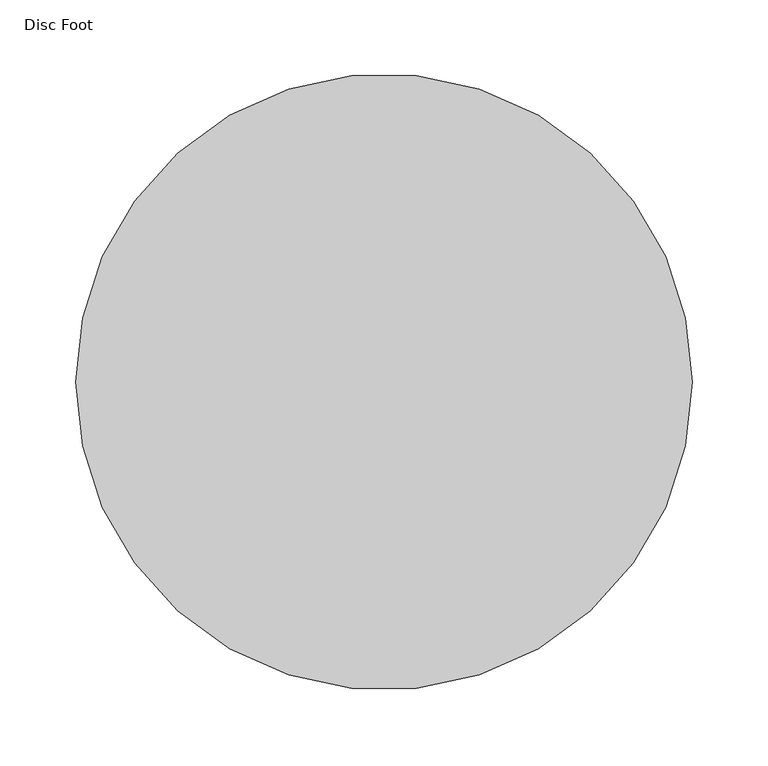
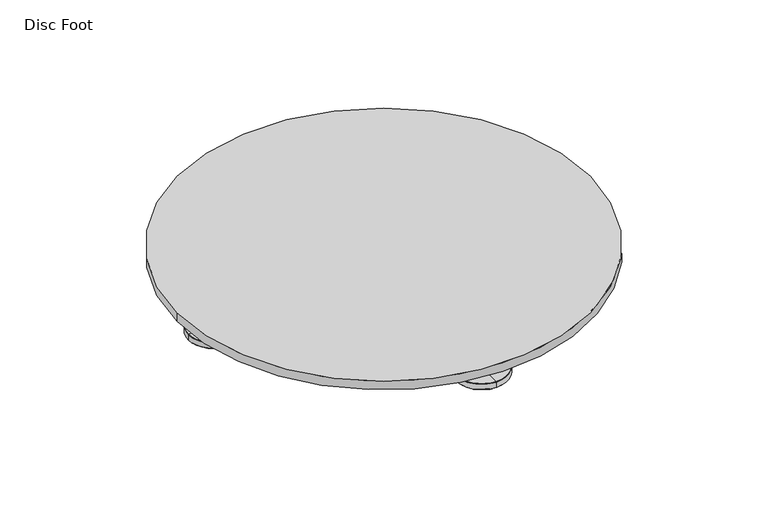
"""IFC4 building model written with IfcOpenShell, lengths in millimetres: furniture geometry, Geiger_GeigerOneCasegoods_LegSupport : Disc Foot."""

from ifc_helpers import new_model, si_unit, point, frame, origin, origin_2d, place, context, project, spatial, polyline, circle_curve, trimmed, segment, composite_curve, outline, extrude, source, transform, mapped, element, save
from ifc_brep_helpers import plane_surface, cylinder_surface, revolved_surface, advanced_brep


def disc_foot_0842a4c7(model_context):
    return source(origin(), model_context, "Body", "SolidModel", [
        extrude(outline(composite_curve([segment(trimmed(circle_curve(origin_2d(), 203.1570956), [point((-203.1570956, 0.0))], [point((203.1570956, 0.0))], False, "CARTESIAN"), True, "CONTINUOUS"), segment(trimmed(circle_curve(origin_2d(), 203.1570956), [point((203.1570956, 0.0))], [point((-203.1570956, 0.0))], False, "CARTESIAN"), True, "CONTINUOUS")], self_intersect=False)), frame((0.0, 0.0, 23.4), z_axis=(0.0, 0.0, 1.0), x_axis=(1.0, 0.0, 0.0)), (0.0, 0.0, 1.0), 9.0),
        extrude(outline(composite_curve([segment(trimmed(circle_curve(origin_2d(), 174.0827247), [point((-174.0827247, 0.0))], [point((174.0827247, 0.0))], False, "CARTESIAN"), True, "CONTINUOUS"), segment(trimmed(circle_curve(origin_2d(), 174.0827247), [point((174.0827247, 0.0))], [point((-174.0827247, 0.0))], False, "CARTESIAN"), True, "CONTINUOUS")], self_intersect=False)), frame((0.0, 0.0, 13.4), z_axis=(0.0, 0.0, 1.0), x_axis=(1.0, 0.0, 0.0)), (0.0, 0.0, 1.0), 10.0),
        advanced_brep(
        [(191.9, 0.0, 6.4), (142.1, 0.0, 6.4), (163.0649249, 0.0, 6.4), (170.9350751, 0.0, 6.4), (163.0649249, 0.0, 13.4), (170.9350751, 0.0, 13.4), (167.0, 0.0, 13.4), (167.0, 0.0, 0.0), (142.1, 0.0, 0.0), (191.9, 0.0, 0.0), (141.5365462, 0.0, 0.5634538), (192.4634538, 0.0, 0.5634538), (141.5365462, 0.0, 5.8365462), (192.4634538, 0.0, 5.8365462)],
        [
            (0, 1, circle_curve(frame((167.0, 0.0, 6.4), z_axis=(0.0, 0.0, 1.0), x_axis=(-1.0, 0.0, 0.0)), 24.9)),
            (1, 2),
            (2, 3, circle_curve(frame((167.0, 0.0, 6.4), z_axis=(0.0, 0.0, -1.0), x_axis=(-1.0, 0.0, 0.0)), 3.9350751)),
            (3, 0),
            (1, 0, circle_curve(frame((167.0, 0.0, 6.4), z_axis=(0.0, 0.0, 1.0), x_axis=(-1.0, 0.0, 0.0)), 24.9)),
            (3, 2, circle_curve(frame((167.0, 0.0, 6.4), z_axis=(0.0, 0.0, -1.0), x_axis=(-1.0, 0.0, 0.0)), 3.9350751)),
            (2, 4),
            (4, 5, circle_curve(frame((167.0, 0.0, 13.4), z_axis=(0.0, 0.0, -1.0), x_axis=(-1.0, 0.0, 0.0)), 3.9350751)),
            (5, 3),
            (5, 4, circle_curve(frame((167.0, 0.0, 13.4), z_axis=(0.0, 0.0, -1.0), x_axis=(-1.0, 0.0, 0.0)), 3.9350751)),
            (4, 6),
            (6, 5),
            (7, 8),
            (8, 9, circle_curve(frame((167.0, 0.0, 0.0), z_axis=(0.0, 0.0, -1.0), x_axis=(-1.0, 0.0, 0.0)), 24.9)),
            (9, 7),
            (9, 8, circle_curve(frame((167.0, 0.0, 0.0), z_axis=(0.0, 0.0, -1.0), x_axis=(-1.0, 0.0, 0.0)), 24.9)),
            (8, 10),
            (10, 11, circle_curve(frame((167.0, 0.0, 0.5634538), z_axis=(0.0, 0.0, -1.0), x_axis=(-1.0, 0.0, 0.0)), 25.4634538)),
            (11, 9),
            (11, 10, circle_curve(frame((167.0, 0.0, 0.5634538), z_axis=(0.0, 0.0, -1.0), x_axis=(-1.0, 0.0, 0.0)), 25.4634538)),
            (10, 12),
            (12, 13, circle_curve(frame((167.0, 0.0, 5.8365462), z_axis=(0.0, 0.0, -1.0), x_axis=(-1.0, 0.0, 0.0)), 25.4634538)),
            (13, 11),
            (13, 12, circle_curve(frame((167.0, 0.0, 5.8365462), z_axis=(0.0, 0.0, -1.0), x_axis=(-1.0, 0.0, 0.0)), 25.4634538)),
            (12, 1),
            (0, 13),
        ],
        [
            plane_surface(frame((167.0, 0.0, 6.4), z_axis=(0.0, 0.0, 1.0), x_axis=(-1.0, 0.0, 0.0))),
            cylinder_surface(frame((167.0, 0.0, 13.4), z_axis=(0.0, 0.0, -1.0), x_axis=(-1.0, 0.0, 0.0)), 3.9350751),
            plane_surface(frame((167.0, 0.0, 13.4), z_axis=(0.0, 0.0, 1.0), x_axis=(-1.0, 0.0, 0.0))),
            plane_surface(frame((167.0, 0.0, 0.0), z_axis=(0.0, 0.0, -1.0), x_axis=(-1.0, 0.0, 0.0))),
            revolved_surface(polyline([(141.5365462, 0.0, 0.5634538), (142.1, 0.0, 0.0)]), (167.0, 0.0, 13.4), (0.0, 0.0, -1.0)),
            cylinder_surface(frame((167.0, 0.0, 13.4), z_axis=(0.0, 0.0, -1.0), x_axis=(-1.0, 0.0, 0.0)), 25.4634538),
            revolved_surface(polyline([(142.1, 0.0, 6.4), (141.5365462, 0.0, 5.8365462)]), (167.0, 0.0, 13.4), (0.0, 0.0, -1.0)),
        ],
        [
            (0, [[1, 2, 3, 4]]),
            (0, [[5, -4, 6, -2]]),
            (1, [[-3, 7, 8, 9]]),
            (1, [[-6, -9, 10, -7]]),
            (2, [[-8, 11, 12]]),
            (2, [[-10, -12, -11]]),
            (3, [[13, 14, 15]]),
            (3, [[-15, 16, -13]]),
            (4, [[-14, 17, 18, 19]]),
            (4, [[-16, -19, 20, -17]]),
            (5, [[-18, 21, 22, 23]]),
            (5, [[-20, -23, 24, -21]]),
            (6, [[-22, 25, -1, 26]]),
            (6, [[-24, -26, -5, -25]]),
        ],
    ),
        advanced_brep(
        [(-0.0117526, 170.9233224, 6.4), (-0.0117526, 163.0531723, 6.4), (-0.0117526, 142.0882474, 6.4), (-0.0117526, 191.8882474, 6.4), (-0.0117526, 170.9233224, 13.4), (-0.0117526, 163.0531723, 13.4), (-0.0117526, 166.9882474, 13.4), (-0.0117526, 191.8882474, 0.0), (-0.0117526, 142.0882474, 0.0), (-0.0117526, 166.9882474, 0.0), (-0.0117526, 192.4517012, 0.5634538), (-0.0117526, 141.5247935, 0.5634538), (-0.0117526, 192.4517012, 5.8365462), (-0.0117526, 141.5247935, 5.8365462)],
        [
            (0, 1, circle_curve(frame((-0.0117526, 166.9882474, 6.4), z_axis=(0.0, 0.0, -1.0), x_axis=(0.0, -1.0, 0.0)), 3.9350751)),
            (1, 2),
            (2, 3, circle_curve(frame((-0.0117526, 166.9882474, 6.4), z_axis=(0.0, 0.0, 1.0), x_axis=(0.0, -1.0, 0.0)), 24.9)),
            (3, 0),
            (1, 0, circle_curve(frame((-0.0117526, 166.9882474, 6.4), z_axis=(0.0, 0.0, -1.0), x_axis=(0.0, -1.0, 0.0)), 3.9350751)),
            (3, 2, circle_curve(frame((-0.0117526, 166.9882474, 6.4), z_axis=(0.0, 0.0, 1.0), x_axis=(0.0, -1.0, 0.0)), 24.9)),
            (4, 5, circle_curve(frame((-0.0117526, 166.9882474, 13.4), z_axis=(0.0, 0.0, -1.0), x_axis=(0.0, -1.0, 0.0)), 3.9350751)),
            (5, 1),
            (0, 4),
            (5, 4, circle_curve(frame((-0.0117526, 166.9882474, 13.4), z_axis=(0.0, 0.0, -1.0), x_axis=(0.0, -1.0, 0.0)), 3.9350751)),
            (6, 5),
            (4, 6),
            (7, 8, circle_curve(frame((-0.0117526, 166.9882474, 0.0), z_axis=(0.0, 0.0, -1.0), x_axis=(0.0, -1.0, 0.0)), 24.9)),
            (8, 9),
            (9, 7),
            (8, 7, circle_curve(frame((-0.0117526, 166.9882474, 0.0), z_axis=(0.0, 0.0, -1.0), x_axis=(0.0, -1.0, 0.0)), 24.9)),
            (10, 11, circle_curve(frame((-0.0117526, 166.9882474, 0.5634538), z_axis=(0.0, 0.0, -1.0), x_axis=(0.0, -1.0, 0.0)), 25.4634538)),
            (11, 8),
            (7, 10),
            (11, 10, circle_curve(frame((-0.0117526, 166.9882474, 0.5634538), z_axis=(0.0, 0.0, -1.0), x_axis=(0.0, -1.0, 0.0)), 25.4634538)),
            (12, 13, circle_curve(frame((-0.0117526, 166.9882474, 5.8365462), z_axis=(0.0, 0.0, -1.0), x_axis=(0.0, -1.0, 0.0)), 25.4634538)),
            (13, 11),
            (10, 12),
            (13, 12, circle_curve(frame((-0.0117526, 166.9882474, 5.8365462), z_axis=(0.0, 0.0, -1.0), x_axis=(0.0, -1.0, 0.0)), 25.4634538)),
            (2, 13),
            (12, 3),
        ],
        [
            plane_surface(frame((-0.0117526, 166.9882474, 6.4), z_axis=(0.0, 0.0, 1.0), x_axis=(0.0, -1.0, 0.0))),
            cylinder_surface(frame((-0.0117526, 166.9882474, 13.4), z_axis=(0.0, 0.0, 1.0), x_axis=(0.0, -1.0, 0.0)), 3.9350751),
            plane_surface(frame((-0.0117526, 166.9882474, 13.4), z_axis=(0.0, 0.0, 1.0), x_axis=(0.0, -1.0, 0.0))),
            plane_surface(frame((-0.0117526, 166.9882474, 0.0), z_axis=(0.0, 0.0, -1.0), x_axis=(0.0, -1.0, 0.0))),
            revolved_surface(polyline([(-0.0117526, 142.0882474, 0.0), (-0.0117526, 141.5247935, 0.5634538)]), (-0.0117526, 166.9882474, 13.4), (0.0, 0.0, 1.0)),
            cylinder_surface(frame((-0.0117526, 166.9882474, 13.4), z_axis=(0.0, 0.0, 1.0), x_axis=(0.0, -1.0, 0.0)), 25.4634538),
            revolved_surface(polyline([(-0.0117526, 141.5247935, 5.8365462), (-0.0117526, 142.0882474, 6.4)]), (-0.0117526, 166.9882474, 13.4), (0.0, 0.0, 1.0)),
        ],
        [
            (0, [[1, 2, 3, 4]]),
            (0, [[5, -4, 6, -2]]),
            (1, [[7, 8, -1, 9]]),
            (1, [[10, -9, -5, -8]]),
            (2, [[11, -7, 12]]),
            (2, [[-12, -10, -11]]),
            (3, [[13, 14, 15]]),
            (3, [[16, -15, -14]]),
            (4, [[17, 18, -13, 19]]),
            (4, [[20, -19, -16, -18]]),
            (5, [[21, 22, -17, 23]]),
            (5, [[24, -23, -20, -22]]),
            (6, [[-3, 25, -21, 26]]),
            (6, [[-6, -26, -24, -25]]),
        ],
    ),
        advanced_brep(
        [(-0.0117526, -191.8882474, 6.4), (-0.0117526, -142.0882474, 6.4), (-0.0117526, -163.0531723, 6.4), (-0.0117526, -170.9233224, 6.4), (-0.0117526, -163.0531723, 13.4), (-0.0117526, -170.9233224, 13.4), (-0.0117526, -166.9882474, 13.4), (-0.0117526, -166.9882474, 0.0), (-0.0117526, -142.0882474, 0.0), (-0.0117526, -191.8882474, 0.0), (-0.0117526, -141.5247935, 0.5634538), (-0.0117526, -192.4517012, 0.5634538), (-0.0117526, -141.5247935, 5.8365462), (-0.0117526, -192.4517012, 5.8365462)],
        [
            (0, 1, circle_curve(frame((-0.0117526, -166.9882474, 6.4), z_axis=(0.0, 0.0, 1.0), x_axis=(0.0, 1.0, 0.0)), 24.9)),
            (1, 2),
            (2, 3, circle_curve(frame((-0.0117526, -166.9882474, 6.4), z_axis=(0.0, 0.0, -1.0), x_axis=(0.0, 1.0, 0.0)), 3.9350751)),
            (3, 0),
            (1, 0, circle_curve(frame((-0.0117526, -166.9882474, 6.4), z_axis=(0.0, 0.0, 1.0), x_axis=(0.0, 1.0, 0.0)), 24.9)),
            (3, 2, circle_curve(frame((-0.0117526, -166.9882474, 6.4), z_axis=(0.0, 0.0, -1.0), x_axis=(0.0, 1.0, 0.0)), 3.9350751)),
            (2, 4),
            (4, 5, circle_curve(frame((-0.0117526, -166.9882474, 13.4), z_axis=(0.0, 0.0, -1.0), x_axis=(0.0, 1.0, 0.0)), 3.9350751)),
            (5, 3),
            (5, 4, circle_curve(frame((-0.0117526, -166.9882474, 13.4), z_axis=(0.0, 0.0, -1.0), x_axis=(0.0, 1.0, 0.0)), 3.9350751)),
            (4, 6),
            (6, 5),
            (7, 8),
            (8, 9, circle_curve(frame((-0.0117526, -166.9882474, 0.0), z_axis=(0.0, 0.0, -1.0), x_axis=(0.0, 1.0, 0.0)), 24.9)),
            (9, 7),
            (9, 8, circle_curve(frame((-0.0117526, -166.9882474, 0.0), z_axis=(0.0, 0.0, -1.0), x_axis=(0.0, 1.0, 0.0)), 24.9)),
            (8, 10),
            (10, 11, circle_curve(frame((-0.0117526, -166.9882474, 0.5634538), z_axis=(0.0, 0.0, -1.0), x_axis=(0.0, 1.0, 0.0)), 25.4634538)),
            (11, 9),
            (11, 10, circle_curve(frame((-0.0117526, -166.9882474, 0.5634538), z_axis=(0.0, 0.0, -1.0), x_axis=(0.0, 1.0, 0.0)), 25.4634538)),
            (10, 12),
            (12, 13, circle_curve(frame((-0.0117526, -166.9882474, 5.8365462), z_axis=(0.0, 0.0, -1.0), x_axis=(0.0, 1.0, 0.0)), 25.4634538)),
            (13, 11),
            (13, 12, circle_curve(frame((-0.0117526, -166.9882474, 5.8365462), z_axis=(0.0, 0.0, -1.0), x_axis=(0.0, 1.0, 0.0)), 25.4634538)),
            (12, 1),
            (0, 13),
        ],
        [
            plane_surface(frame((-0.0117526, -166.9882474, 6.4), z_axis=(0.0, 0.0, 1.0), x_axis=(0.0, 1.0, 0.0))),
            cylinder_surface(frame((-0.0117526, -166.9882474, 13.4), z_axis=(0.0, 0.0, -1.0), x_axis=(0.0, 1.0, 0.0)), 3.9350751),
            plane_surface(frame((-0.0117526, -166.9882474, 13.4), z_axis=(0.0, 0.0, 1.0), x_axis=(0.0, 1.0, 0.0))),
            plane_surface(frame((-0.0117526, -166.9882474, 0.0), z_axis=(0.0, 0.0, -1.0), x_axis=(0.0, 1.0, 0.0))),
            revolved_surface(polyline([(-0.0117526, -141.5247935, 0.5634538), (-0.0117526, -142.0882474, 0.0)]), (-0.0117526, -166.9882474, 13.4), (0.0, 0.0, -1.0)),
            cylinder_surface(frame((-0.0117526, -166.9882474, 13.4), z_axis=(0.0, 0.0, -1.0), x_axis=(0.0, 1.0, 0.0)), 25.4634538),
            revolved_surface(polyline([(-0.0117526, -142.0882474, 6.4), (-0.0117526, -141.5247935, 5.8365462)]), (-0.0117526, -166.9882474, 13.4), (0.0, 0.0, -1.0)),
        ],
        [
            (0, [[1, 2, 3, 4]]),
            (0, [[5, -4, 6, -2]]),
            (1, [[-3, 7, 8, 9]]),
            (1, [[-6, -9, 10, -7]]),
            (2, [[-8, 11, 12]]),
            (2, [[-10, -12, -11]]),
            (3, [[13, 14, 15]]),
            (3, [[-15, 16, -13]]),
            (4, [[-14, 17, 18, 19]]),
            (4, [[-16, -19, 20, -17]]),
            (5, [[-18, 21, 22, 23]]),
            (5, [[-20, -23, 24, -21]]),
            (6, [[-22, 25, -1, 26]]),
            (6, [[-24, -26, -5, -25]]),
        ],
    ),
        advanced_brep(
        [(-170.9350751, 0.0, 6.4), (-163.0649249, 0.0, 6.4), (-142.1, 0.0, 6.4), (-191.9, 0.0, 6.4), (-170.9350751, 0.0, 13.4), (-163.0649249, 0.0, 13.4), (-167.0, 0.0, 13.4), (-191.9, 0.0, 0.0), (-142.1, 0.0, 0.0), (-167.0, 0.0, 0.0), (-192.4634538, 0.0, 0.5634538), (-141.5365462, 0.0, 0.5634538), (-192.4634538, 0.0, 5.8365462), (-141.5365462, 0.0, 5.8365462)],
        [
            (0, 1, circle_curve(frame((-167.0, 0.0, 6.4), z_axis=(0.0, 0.0, -1.0), x_axis=(1.0, 0.0, 0.0)), 3.9350751)),
            (1, 2),
            (2, 3, circle_curve(frame((-167.0, 0.0, 6.4), z_axis=(0.0, 0.0, 1.0), x_axis=(1.0, 0.0, 0.0)), 24.9)),
            (3, 0),
            (1, 0, circle_curve(frame((-167.0, 0.0, 6.4), z_axis=(0.0, 0.0, -1.0), x_axis=(1.0, 0.0, 0.0)), 3.9350751)),
            (3, 2, circle_curve(frame((-167.0, 0.0, 6.4), z_axis=(0.0, 0.0, 1.0), x_axis=(1.0, 0.0, 0.0)), 24.9)),
            (4, 5, circle_curve(frame((-167.0, 0.0, 13.4), z_axis=(0.0, 0.0, -1.0), x_axis=(1.0, 0.0, 0.0)), 3.9350751)),
            (5, 1),
            (0, 4),
            (5, 4, circle_curve(frame((-167.0, 0.0, 13.4), z_axis=(0.0, 0.0, -1.0), x_axis=(1.0, 0.0, 0.0)), 3.9350751)),
            (6, 5),
            (4, 6),
            (7, 8, circle_curve(frame((-167.0, 0.0, 0.0), z_axis=(0.0, 0.0, -1.0), x_axis=(1.0, 0.0, 0.0)), 24.9)),
            (8, 9),
            (9, 7),
            (8, 7, circle_curve(frame((-167.0, 0.0, 0.0), z_axis=(0.0, 0.0, -1.0), x_axis=(1.0, 0.0, 0.0)), 24.9)),
            (10, 11, circle_curve(frame((-167.0, 0.0, 0.5634538), z_axis=(0.0, 0.0, -1.0), x_axis=(1.0, 0.0, 0.0)), 25.4634538)),
            (11, 8),
            (7, 10),
            (11, 10, circle_curve(frame((-167.0, 0.0, 0.5634538), z_axis=(0.0, 0.0, -1.0), x_axis=(1.0, 0.0, 0.0)), 25.4634538)),
            (12, 13, circle_curve(frame((-167.0, 0.0, 5.8365462), z_axis=(0.0, 0.0, -1.0), x_axis=(1.0, 0.0, 0.0)), 25.4634538)),
            (13, 11),
            (10, 12),
            (13, 12, circle_curve(frame((-167.0, 0.0, 5.8365462), z_axis=(0.0, 0.0, -1.0), x_axis=(1.0, 0.0, 0.0)), 25.4634538)),
            (2, 13),
            (12, 3),
        ],
        [
            plane_surface(frame((-167.0, 0.0, 6.4), z_axis=(0.0, 0.0, 1.0), x_axis=(1.0, 0.0, 0.0))),
            cylinder_surface(frame((-167.0, 0.0, 13.4), z_axis=(0.0, 0.0, 1.0), x_axis=(1.0, 0.0, 0.0)), 3.9350751),
            plane_surface(frame((-167.0, 0.0, 13.4), z_axis=(0.0, 0.0, 1.0), x_axis=(1.0, 0.0, 0.0))),
            plane_surface(frame((-167.0, 0.0, 0.0), z_axis=(0.0, 0.0, -1.0), x_axis=(1.0, 0.0, 0.0))),
            revolved_surface(polyline([(-142.1, 0.0, 0.0), (-141.5365462, 0.0, 0.5634538)]), (-167.0, 0.0, 13.4), (0.0, 0.0, 1.0)),
            cylinder_surface(frame((-167.0, 0.0, 13.4), z_axis=(0.0, 0.0, 1.0), x_axis=(1.0, 0.0, 0.0)), 25.4634538),
            revolved_surface(polyline([(-141.5365462, 0.0, 5.8365462), (-142.1, 0.0, 6.4)]), (-167.0, 0.0, 13.4), (0.0, 0.0, 1.0)),
        ],
        [
            (0, [[1, 2, 3, 4]]),
            (0, [[5, -4, 6, -2]]),
            (1, [[7, 8, -1, 9]]),
            (1, [[10, -9, -5, -8]]),
            (2, [[11, -7, 12]]),
            (2, [[-12, -10, -11]]),
            (3, [[13, 14, 15]]),
            (3, [[16, -15, -14]]),
            (4, [[17, 18, -13, 19]]),
            (4, [[20, -19, -16, -18]]),
            (5, [[21, 22, -17, 23]]),
            (5, [[24, -23, -20, -22]]),
            (6, [[-3, 25, -21, 26]]),
            (6, [[-6, -26, -24, -25]]),
        ],
    ),
    ])


if __name__ == "__main__":
    model = new_model("IFC4")
    model_context = context("Model", 3, world=origin())
    ifc_project = project(units=[si_unit("LENGTHUNIT", "METRE", prefix="MILLI")], contexts=[model_context])
    site = spatial("IfcSite", under=ifc_project)
    building = spatial("IfcBuilding", under=site)
    placement = place(None, origin())
    disc_foot_shape = disc_foot_0842a4c7(model_context)
    element("IfcFurniture", 1, ObjectType="Geiger_GeigerOneCasegoods_LegSupport : Disc Foot", at=placement, inside=building, context=model_context, shape_type="MappedRepresentation", body=[
        mapped(disc_foot_shape, transform((0.0, 0.0, 0.0), x_axis=(1.0, 0.0, 0.0), y_axis=(0.0, 1.0, 0.0), z_axis=(0.0, 0.0, 1.0))),
    ])
    save(model, "model.ifc")
